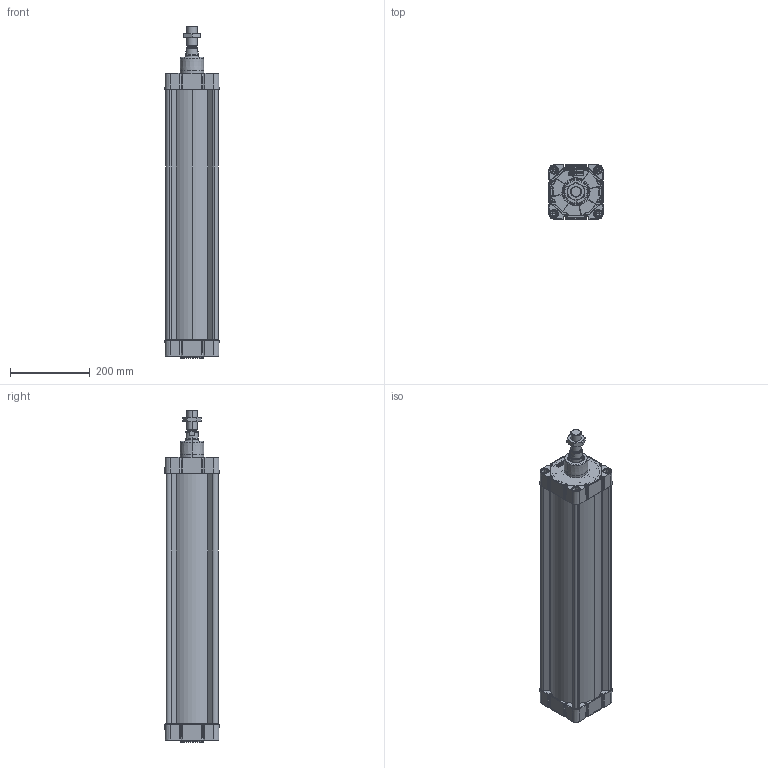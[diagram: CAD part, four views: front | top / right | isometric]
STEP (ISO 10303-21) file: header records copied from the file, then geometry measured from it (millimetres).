
FILE_DESCRIPTION (( 'STEP AP214' ), '1' );
FILE_NAME ('E11M21250550.STEP', '2021-10-29T09:50:38', ( '' ), ( '' ), 'SwSTEP 2.0', 'SolidWorks 2016', '' );
FILE_SCHEMA (( 'AUTOMOTIVE_DESIGN' ));
Length unit declared in the file: millimetre
Products named in the file (7): 21.754.0; E11M21250550; 000.536.7_000.536.0550; TA Ø125 ISO 15552 WEB; 21.G01.0000_21.G01.0550; TP Ø125 ISO 15552 WEB; Pistone Ø125 ISO 15552
Assembly tree (6 placements, depth 2):
  E11M21250550
    TP Ø125 ISO 15552 WEB
    TA Ø125 ISO 15552 WEB
    21.754.0
    21.G01.0000_21.G01.0550
    Pistone Ø125 ISO 15552
    000.536.7_000.536.0550
Bounding box: 135.91 x 135.95 x 834 mm (x, y, z)
Volume: 3602986.3 mm3; surface area: 1300770.2 mm2
Topology: 17 solids, 21 shells, 2502 faces, 6443 edges, 4029 vertices
Faces by surface type: plane 991, cylinder 705, bspline 365, cone 312, torus 96, sphere 33
Entity records: 116283 total; most frequent: CARTESIAN_POINT 32829, ORIENTED_EDGE 12750, DIRECTION 11490, EDGE_CURVE 6375, AXIS2_PLACEMENT_3D 4112, VERTEX_POINT 4029, VECTOR 3266, LINE 3266
